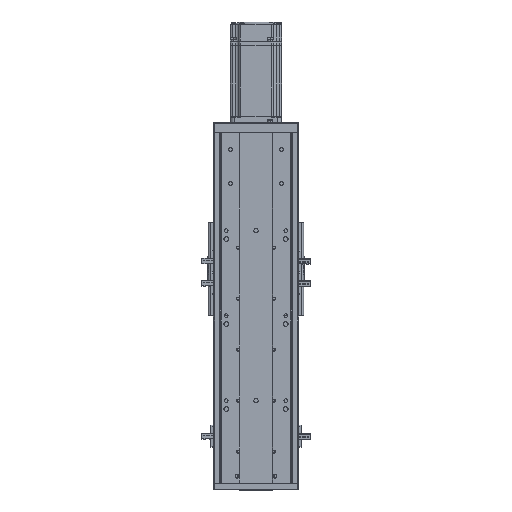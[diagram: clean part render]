
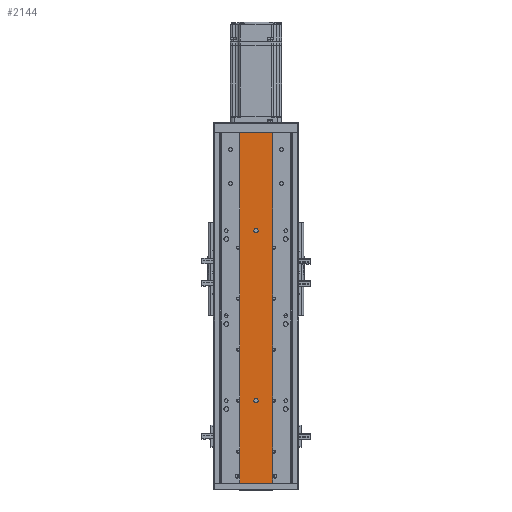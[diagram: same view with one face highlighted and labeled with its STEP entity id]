
A CAD part, top view. The second image highlights one B-rep face of the part: STEP entity #2144.
In plain terms, the highlighted planar face has unit normal (0, 0, 1).
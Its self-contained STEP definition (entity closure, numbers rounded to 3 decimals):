
#2144 = ADVANCED_FACE ( 'NONE', ( #5484, #5470, #5457 ), #6344, .F. ) ;
#3351 = AXIS2_PLACEMENT_3D ( 'NONE', #6360, #6345, #6391 ) ;
#4603 = AXIS2_PLACEMENT_3D ( 'NONE', #30741, #30743, #30759 ) ;
#4608 = AXIS2_PLACEMENT_3D ( 'NONE', #30752, #30772, #30753 ) ;
#5457 = FACE_OUTER_BOUND ( 'NONE', #15828, .T. ) ;
#5470 = FACE_BOUND ( 'NONE', #15840, .T. ) ;
#5484 = FACE_BOUND ( 'NONE', #15756, .T. ) ;
#6344 = PLANE ( 'NONE',  #3351 ) ;
#6345 = DIRECTION ( 'NONE',  ( 0., 0., -1. ) ) ;
#6360 = CARTESIAN_POINT ( 'NONE',  ( -10645.079, 412., -17040.86 ) ) ;
#6391 = DIRECTION ( 'NONE',  ( -1., 0., 0. ) ) ;
#8951 = EDGE_CURVE ( 'NONE', #15389, #15422, #30982, .T. ) ;
#8974 = EDGE_CURVE ( 'NONE', #15427, #15390, #31092, .T. ) ;
#9008 = EDGE_CURVE ( 'NONE', #15422, #15390, #31119, .T. ) ;
#9048 = EDGE_CURVE ( 'NONE', #37960, #37920, #31224, .T. ) ;
#9050 = EDGE_CURVE ( 'NONE', #15389, #15427, #31208, .T. ) ;
#9060 = EDGE_CURVE ( 'NONE', #37972, #37892, #31230, .T. ) ;
#9389 = EDGE_CURVE ( 'NONE', #37892, #37972, #31783, .T. ) ;
#9397 = EDGE_CURVE ( 'NONE', #37920, #37960, #31828, .T. ) ;
#11086 = ORIENTED_EDGE ( 'NONE', *, *, #9048, .T. ) ;
#11133 = ORIENTED_EDGE ( 'NONE', *, *, #9008, .F. ) ;
#11135 = ORIENTED_EDGE ( 'NONE', *, *, #9050, .T. ) ;
#11142 = ORIENTED_EDGE ( 'NONE', *, *, #9060, .T. ) ;
#11150 = ORIENTED_EDGE ( 'NONE', *, *, #9389, .T. ) ;
#11163 = ORIENTED_EDGE ( 'NONE', *, *, #8951, .F. ) ;
#11175 = ORIENTED_EDGE ( 'NONE', *, *, #9397, .T. ) ;
#11177 = ORIENTED_EDGE ( 'NONE', *, *, #8974, .T. ) ;
#15389 = VERTEX_POINT ( 'NONE', #26763 ) ;
#15390 = VERTEX_POINT ( 'NONE', #26814 ) ;
#15422 = VERTEX_POINT ( 'NONE', #26761 ) ;
#15427 = VERTEX_POINT ( 'NONE', #26780 ) ;
#15756 = EDGE_LOOP ( 'NONE', ( #11150, #11142 ) ) ;
#15828 = EDGE_LOOP ( 'NONE', ( #11177, #11133, #11163, #11135 ) ) ;
#15840 = EDGE_LOOP ( 'NONE', ( #11175, #11086 ) ) ;
#24439 = AXIS2_PLACEMENT_3D ( 'NONE', #33030, #33021, #33024 ) ;
#24468 = AXIS2_PLACEMENT_3D ( 'NONE', #33011, #33009, #33007 ) ;
#26761 = CARTESIAN_POINT ( 'NONE',  ( -10607.079, 412., -17040.86 ) ) ;
#26763 = CARTESIAN_POINT ( 'NONE',  ( -10645.079, 412., -17040.86 ) ) ;
#26780 = CARTESIAN_POINT ( 'NONE',  ( -10645.079, 0., -17040.86 ) ) ;
#26814 = CARTESIAN_POINT ( 'NONE',  ( -10607.079, 0., -17040.86 ) ) ;
#27789 = CARTESIAN_POINT ( 'NONE',  ( -10623.579, 97., -17040.86 ) ) ;
#27837 = CARTESIAN_POINT ( 'NONE',  ( -10623.579, 297., -17040.86 ) ) ;
#27862 = CARTESIAN_POINT ( 'NONE',  ( -10628.579, 97., -17040.86 ) ) ;
#27889 = CARTESIAN_POINT ( 'NONE',  ( -10628.579, 297., -17040.86 ) ) ;
#30446 = DIRECTION ( 'NONE',  ( 1., 0., 0. ) ) ;
#30464 = CARTESIAN_POINT ( 'NONE',  ( -10645.079, 412., -17040.86 ) ) ;
#30499 = DIRECTION ( 'NONE',  ( 1., 0., 0. ) ) ;
#30518 = CARTESIAN_POINT ( 'NONE',  ( -10645.079, 0., -17040.86 ) ) ;
#30626 = DIRECTION ( 'NONE',  ( 0., -1., 0. ) ) ;
#30646 = CARTESIAN_POINT ( 'NONE',  ( -10607.079, 412., -17040.86 ) ) ;
#30741 = CARTESIAN_POINT ( 'NONE',  ( -10626.079, 97., -17040.86 ) ) ;
#30742 = DIRECTION ( 'NONE',  ( 0., -1., 0. ) ) ;
#30743 = DIRECTION ( 'NONE',  ( 0., 0., -1. ) ) ;
#30752 = CARTESIAN_POINT ( 'NONE',  ( -10626.079, 297., -17040.86 ) ) ;
#30753 = DIRECTION ( 'NONE',  ( -1., 0., 0. ) ) ;
#30759 = DIRECTION ( 'NONE',  ( -1., 0., 0. ) ) ;
#30764 = CARTESIAN_POINT ( 'NONE',  ( -10645.079, 412., -17040.86 ) ) ;
#30772 = DIRECTION ( 'NONE',  ( 0., 0., -1. ) ) ;
#30982 = LINE ( 'NONE', #30464, #31016 ) ;
#31016 = VECTOR ( 'NONE', #30446, 1000. ) ;
#31056 = VECTOR ( 'NONE', #30499, 1000. ) ;
#31092 = LINE ( 'NONE', #30518, #31056 ) ;
#31119 = LINE ( 'NONE', #30646, #31163 ) ;
#31163 = VECTOR ( 'NONE', #30626, 1000. ) ;
#31208 = LINE ( 'NONE', #30764, #31262 ) ;
#31224 = CIRCLE ( 'NONE', #4603, 2.5 ) ;
#31230 = CIRCLE ( 'NONE', #4608, 2.5 ) ;
#31262 = VECTOR ( 'NONE', #30742, 1000. ) ;
#31783 = CIRCLE ( 'NONE', #24468, 2.5 ) ;
#31828 = CIRCLE ( 'NONE', #24439, 2.5 ) ;
#33007 = DIRECTION ( 'NONE',  ( -1., 0., 0. ) ) ;
#33009 = DIRECTION ( 'NONE',  ( 0., 0., -1. ) ) ;
#33011 = CARTESIAN_POINT ( 'NONE',  ( -10626.079, 297., -17040.86 ) ) ;
#33021 = DIRECTION ( 'NONE',  ( 0., 0., -1. ) ) ;
#33024 = DIRECTION ( 'NONE',  ( -1., 0., 0. ) ) ;
#33030 = CARTESIAN_POINT ( 'NONE',  ( -10626.079, 97., -17040.86 ) ) ;
#37892 = VERTEX_POINT ( 'NONE', #27837 ) ;
#37920 = VERTEX_POINT ( 'NONE', #27789 ) ;
#37960 = VERTEX_POINT ( 'NONE', #27862 ) ;
#37972 = VERTEX_POINT ( 'NONE', #27889 ) ;
